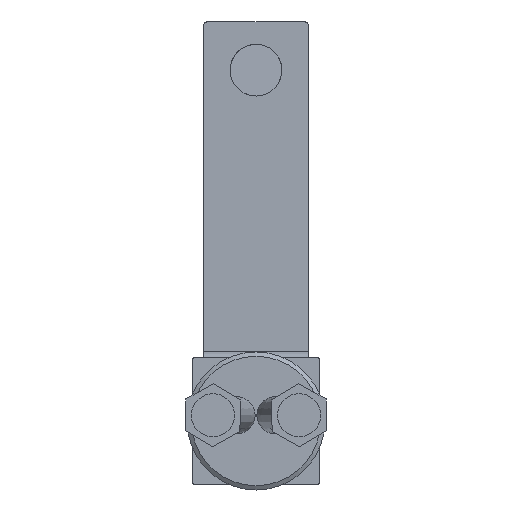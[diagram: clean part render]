
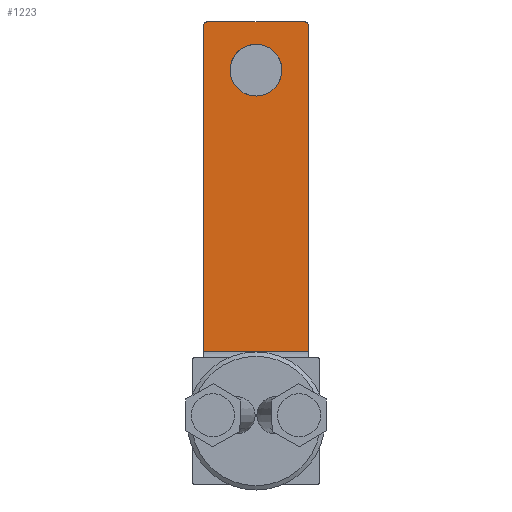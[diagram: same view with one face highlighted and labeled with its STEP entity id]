
A CAD part, front view. The second image highlights one B-rep face of the part: STEP entity #1223.
In plain terms, the highlighted planar face has unit normal (0, -1, 0).
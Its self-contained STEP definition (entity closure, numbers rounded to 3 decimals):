
#30=FACE_BOUND('',#247,.T.);
#44=PLANE('',#1335);
#170=FACE_OUTER_BOUND('',#246,.T.);
#246=EDGE_LOOP('',(#911,#912,#913,#914,#915,#916));
#247=EDGE_LOOP('',(#917));
#341=LINE('',#1861,#449);
#344=LINE('',#1867,#452);
#345=LINE('',#1869,#453);
#346=LINE('',#1871,#454);
#449=VECTOR('',#1501,10.);
#452=VECTOR('',#1506,10.);
#453=VECTOR('',#1507,10.);
#454=VECTOR('',#1508,10.);
#545=CIRCLE('',#1333,1.);
#546=CIRCLE('',#1336,1.);
#547=CIRCLE('',#1337,9.);
#610=VERTEX_POINT('',#1854);
#611=VERTEX_POINT('',#1856);
#612=VERTEX_POINT('',#1860);
#614=VERTEX_POINT('',#1866);
#615=VERTEX_POINT('',#1868);
#616=VERTEX_POINT('',#1870);
#617=VERTEX_POINT('',#1873);
#727=EDGE_CURVE('',#610,#611,#545,.T.);
#729=EDGE_CURVE('',#611,#612,#341,.T.);
#732=EDGE_CURVE('',#614,#610,#344,.T.);
#733=EDGE_CURVE('',#615,#614,#345,.T.);
#734=EDGE_CURVE('',#616,#615,#346,.T.);
#735=EDGE_CURVE('',#612,#616,#546,.T.);
#736=EDGE_CURVE('',#617,#617,#547,.T.);
#911=ORIENTED_EDGE('',*,*,#727,.F.);
#912=ORIENTED_EDGE('',*,*,#732,.F.);
#913=ORIENTED_EDGE('',*,*,#733,.F.);
#914=ORIENTED_EDGE('',*,*,#734,.F.);
#915=ORIENTED_EDGE('',*,*,#735,.F.);
#916=ORIENTED_EDGE('',*,*,#729,.F.);
#917=ORIENTED_EDGE('',*,*,#736,.T.);
#1223=ADVANCED_FACE('',(#170,#30),#44,.T.);
#1333=AXIS2_PLACEMENT_3D('',#1857,#1496,#1497);
#1335=AXIS2_PLACEMENT_3D('',#1865,#1504,#1505);
#1336=AXIS2_PLACEMENT_3D('',#1872,#1509,#1510);
#1337=AXIS2_PLACEMENT_3D('',#1874,#1511,#1512);
#1496=DIRECTION('center_axis',(0.,1.,0.));
#1497=DIRECTION('ref_axis',(-0.707,0.,0.707));
#1501=DIRECTION('',(1.,0.,0.));
#1504=DIRECTION('center_axis',(0.,-1.,0.));
#1505=DIRECTION('ref_axis',(0.,0.,-1.));
#1506=DIRECTION('',(0.,0.,1.));
#1507=DIRECTION('',(-1.,0.,0.));
#1508=DIRECTION('',(0.,0.,-1.));
#1509=DIRECTION('center_axis',(0.,1.,0.));
#1510=DIRECTION('ref_axis',(0.707,0.,0.707));
#1511=DIRECTION('center_axis',(0.,1.,0.));
#1512=DIRECTION('ref_axis',(-1.,0.,0.));
#1854=CARTESIAN_POINT('',(-18.15,-16.5,137.75));
#1856=CARTESIAN_POINT('',(-17.15,-16.5,138.75));
#1857=CARTESIAN_POINT('Origin',(-17.15,-16.5,137.75));
#1860=CARTESIAN_POINT('',(17.15,-16.5,138.75));
#1861=CARTESIAN_POINT('',(0.,-16.5,138.75));
#1865=CARTESIAN_POINT('Origin',(0.,-16.5,138.75));
#1866=CARTESIAN_POINT('',(-18.15,-16.5,24.25));
#1867=CARTESIAN_POINT('',(-18.15,-16.5,138.75));
#1868=CARTESIAN_POINT('',(18.15,-16.5,24.25));
#1869=CARTESIAN_POINT('',(0.,-16.5,24.25));
#1870=CARTESIAN_POINT('',(18.15,-16.5,137.75));
#1871=CARTESIAN_POINT('',(18.15,-16.5,138.75));
#1872=CARTESIAN_POINT('Origin',(17.15,-16.5,137.75));
#1873=CARTESIAN_POINT('',(9.,-16.5,122.));
#1874=CARTESIAN_POINT('Origin',(0.,-16.5,122.));
